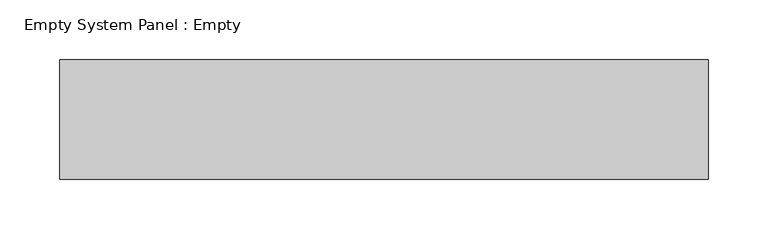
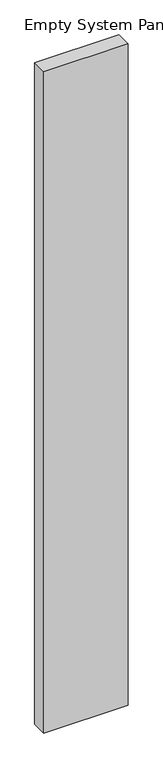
"""IFC4 building model written with IfcOpenShell, lengths in millimetres: plate geometry, Empty System Panel : Empty."""

from ifc_helpers import new_model, si_unit, origin, origin_with_axes, place, context, project, spatial, polyline, outline, extrude, source, transform, mapped, element, save


def empty_system_panel_empty_5409ad96(model_context):
    return source(origin(), model_context, "Body", "SweptSolid", [
        extrude(outline(polyline([(271.6623204, -50.0), (-271.6623204, -50.0), (-271.6623204, 50.0), (271.6623204, 50.0), (271.6623204, -50.0)])), origin_with_axes(), (0.0, 0.0, 1.0), 4510.0),
    ])


if __name__ == "__main__":
    model = new_model("IFC4")
    model_context = context("Model", 3, world=origin())
    ifc_project = project(units=[si_unit("LENGTHUNIT", "METRE", prefix="MILLI")], contexts=[model_context])
    site = spatial("IfcSite", under=ifc_project)
    building = spatial("IfcBuilding", under=site)
    placement = place(None, origin())
    empty_system_panel_empty_shape = empty_system_panel_empty_5409ad96(model_context)
    element("IfcPlate", 1, ObjectType="Empty System Panel : Empty", at=placement, inside=building, context=model_context, shape_type="MappedRepresentation", body=[
        mapped(empty_system_panel_empty_shape, transform((0.0, 0.0, 0.0), x_axis=(1.0, 0.0, 0.0), y_axis=(0.0, 1.0, 0.0), z_axis=(0.0, 0.0, 1.0))),
    ])
    save(model, "model.ifc")
